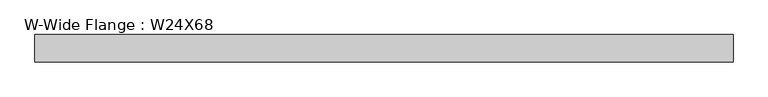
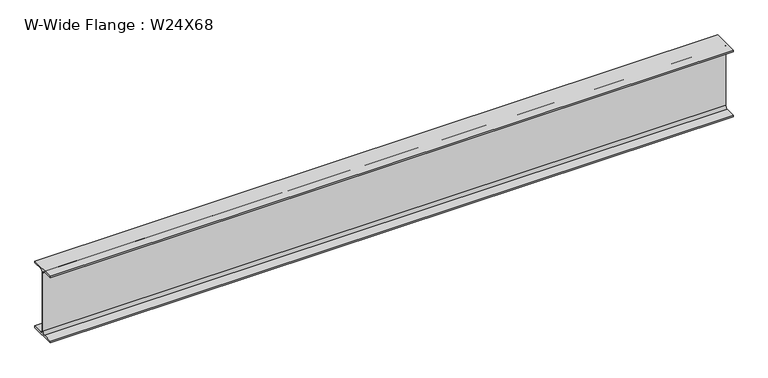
"""IFC4 building model written with IfcOpenShell, lengths in millimetres: beam geometry, W-Wide Flange : W24X68."""

from ifc_helpers import new_model, si_unit, point, frame, frame_2d, origin, place, context, project, spatial, polyline, circle_curve, trimmed, segment, composite_curve, outline, extrude, source, transform, mapped, element, save


def w_wide_flange_w24x68_69e55ce7(model_context):
    return source(origin(), model_context, "Body", "SweptSolid", [
        extrude(outline(composite_curve([segment(polyline([(-113.919, -286.131), (-28.5115, -286.131)]), True, "CONTINUOUS"), segment(trimmed(circle_curve(frame_2d((-28.5115, -262.89)), 23.241), [point((-28.5115, -286.131))], [point((-5.2705, -262.89))], True, "CARTESIAN"), True, "CONTINUOUS"), segment(polyline([(-5.2705, -262.89), (-5.2705, 262.89)]), True, "CONTINUOUS"), segment(trimmed(circle_curve(frame_2d((-28.5115, 262.89)), 23.241), [point((-5.2705, 262.89))], [point((-28.5115, 286.131))], True, "CARTESIAN"), True, "CONTINUOUS"), segment(polyline([(-28.5115, 286.131), (-113.919, 286.131), (-113.919, 300.99), (113.919, 300.99), (113.919, 286.131), (28.5115, 286.131)]), True, "CONTINUOUS"), segment(trimmed(circle_curve(frame_2d((28.5115, 262.89)), 23.241), [point((28.5115, 286.131))], [point((5.2705, 262.89))], True, "CARTESIAN"), True, "CONTINUOUS"), segment(polyline([(5.2705, 262.89), (5.2705, -262.89)]), True, "CONTINUOUS"), segment(trimmed(circle_curve(frame_2d((28.5115, -262.89)), 23.241), [point((5.2705, -262.89))], [point((28.5115, -286.131))], True, "CARTESIAN"), True, "CONTINUOUS"), segment(polyline([(28.5115, -286.131), (113.919, -286.131), (113.919, -300.99), (-113.919, -300.99), (-113.919, -286.131)]), True, "CONTINUOUS")], self_intersect=False)), frame((-2921.2791826, 0.0, 0.0), z_axis=(1.0, 0.0, 0.0), x_axis=(0.0, 1.0, 0.0)), (0.0, 0.0, 1.0), 5842.5583652),
    ])


if __name__ == "__main__":
    model = new_model("IFC4")
    model_context = context("Model", 3, world=origin())
    ifc_project = project(units=[si_unit("LENGTHUNIT", "METRE", prefix="MILLI")], contexts=[model_context])
    site = spatial("IfcSite", under=ifc_project)
    building = spatial("IfcBuilding", under=site)
    placement = place(None, origin())
    w_wide_flange_w24x68_shape = w_wide_flange_w24x68_69e55ce7(model_context)
    element("IfcBeam", 1, ObjectType="W-Wide Flange : W24X68", at=placement, inside=building, context=model_context, shape_type="MappedRepresentation", body=[
        mapped(w_wide_flange_w24x68_shape, transform((0.0, 0.0, 0.0), x_axis=(1.0, 0.0, 0.0), y_axis=(0.0, 1.0, 0.0), z_axis=(0.0, 0.0, 1.0))),
    ])
    save(model, "model.ifc")
